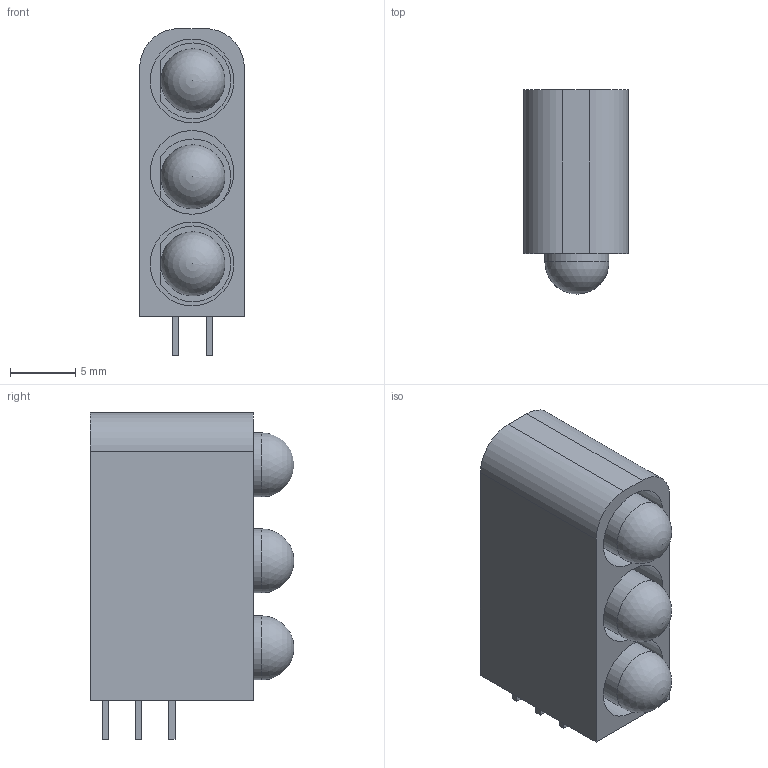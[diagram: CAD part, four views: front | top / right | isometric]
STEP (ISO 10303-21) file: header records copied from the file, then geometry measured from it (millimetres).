
FILE_DESCRIPTION(('FreeCAD Model'),'2;1');
FILE_NAME('Open CASCADE Shape Model','2022-04-09T14:44:01',( 'kicad StepUp'),('ksu MCAD'),'Open CASCADE STEP processor 7.5', 'FreeCAD','Unknown');
FILE_SCHEMA(('AUTOMOTIVE_DESIGN { 1 0 10303 214 1 1 1 1 }'));
Length unit declared in the file: millimetre
Products named in the file (12): Feu_intersection_5mm_avec_fond; Feu_intersection_5mm_fond; Broche_0-5x0-5mm005; Broche_0-5x0-5mm004; Broche_0-5x0-5mm003; Broche_0-5x0-5mm002; Broche_0-5x0-5mm001; Broche_0-5x0-5mm; LED_D5.0mm002; LED_D5.0mm001; LED_D5.0mm; Feux_5mm_asm3_v6-Body
Assembly tree (11 placements, depth 2):
  Feu_intersection_5mm_avec_fond
    Feu_intersection_5mm_fond
    Broche_0-5x0-5mm005
    Broche_0-5x0-5mm004
    Broche_0-5x0-5mm003
    Broche_0-5x0-5mm002
    Broche_0-5x0-5mm001
    Broche_0-5x0-5mm
    LED_D5.0mm002
    LED_D5.0mm001
    LED_D5.0mm
    Feux_5mm_asm3_v6-Body
Bounding box: 8 x 15.6 x 25 mm (x, y, z)
Volume: 1973 mm3; surface area: 2542.2 mm2
Topology: 11 solids, 11 shells, 143 faces, 342 edges, 227 vertices
Faces by surface type: plane 129, cylinder 11, sphere 3
Full cylindrical faces by diameter (mm): 4.9 x3, 6.4 x3
Entity records: 4715 total; most frequent: CARTESIAN_POINT 721, ORIENTED_EDGE 678, DIRECTION 674, EDGE_CURVE 339, LINE 314, VECTOR 314, VERTEX_POINT 227, AXIS2_PLACEMENT_3D 180
